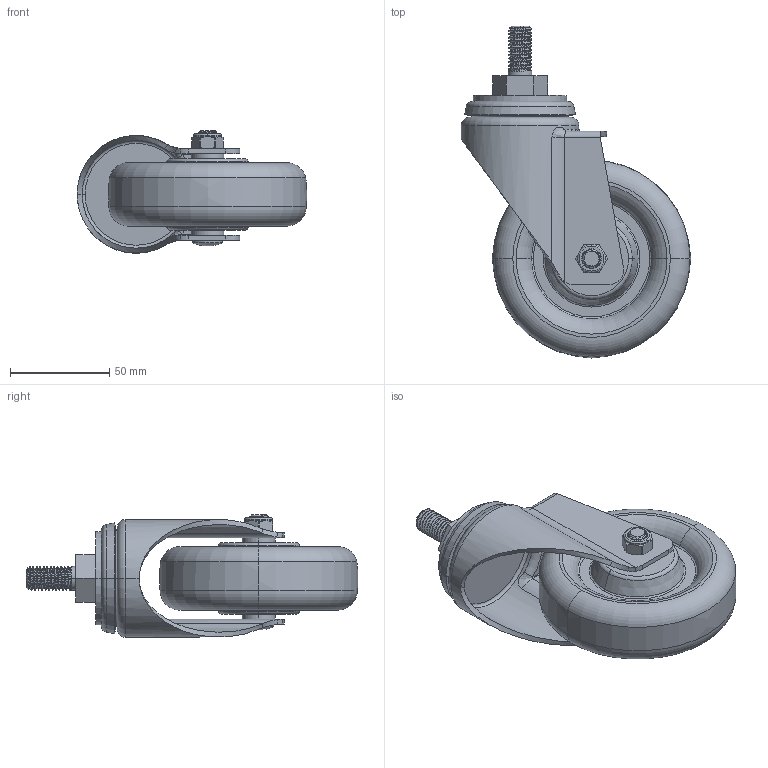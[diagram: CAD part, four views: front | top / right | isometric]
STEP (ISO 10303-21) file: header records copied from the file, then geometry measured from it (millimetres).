
FILE_DESCRIPTION((''),'2;1');
FILE_NAME('50134-504-86_ASM','2020-01-01T',('L'),(''),'PRO/ENGINEER BY PARAMETRIC TECHNOLOGY CORPORATION, 2010280','PRO/ENGINEER BY PARAMETRIC TECHNOLOGY CORPORATION, 2010280','');
FILE_SCHEMA(('CONFIG_CONTROL_DESIGN'));
Length unit declared in the file: millimetre
Products named in the file (5): 50134; 504-986; 570-33; 570-34; 50134-504-86_ASM
Assembly tree (4 placements, depth 2):
  50134-504-86_ASM
    50134
    504-986
    570-33
    570-34
Bounding box: 115.63 x 167.18 x 61.65 mm (x, y, z)
Volume: 279148.5 mm3; surface area: 59946.8 mm2
Topology: 4 solids, 4 shells, 243 faces, 585 edges, 361 vertices
Faces by surface type: cylinder 87, plane 52, bspline 42, torus 32, cone 28, sphere 2
Entity records: 14568 total; most frequent: CARTESIAN_POINT 9160, ORIENTED_EDGE 1166, DIRECTION 999, EDGE_CURVE 583, AXIS2_PLACEMENT_3D 402, VERTEX_POINT 361, EDGE_LOOP 262, FACE_OUTER_BOUND 243
